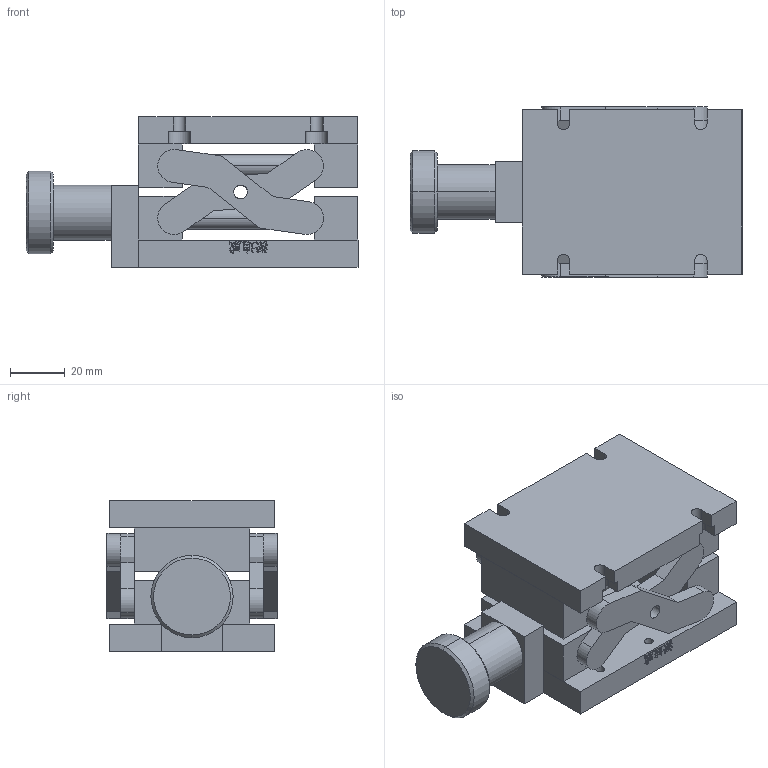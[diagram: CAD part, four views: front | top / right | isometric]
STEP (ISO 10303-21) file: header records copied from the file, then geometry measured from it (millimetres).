
FILE_DESCRIPTION (( 'STEP AP203' ), '1' );
FILE_NAME ('PT-SD31.STEP', '2022-09-04T09:02:31', ( '' ), ( '' ), 'SwSTEP 2.0', 'SolidWorks 2020', '' );
FILE_SCHEMA (( 'CONFIG_CONTROL_DESIGN' ));
Length unit declared in the file: millimetre
Products named in the file (7): 44; 錨璃6^PT-SD31; 錨璃8^PT-SD31; 錨璃7^PT-SD31; PT-SD31; 錨璃10^PT-SD31; 錨璃9^PT-SD31
Assembly tree (10 placements, depth 2):
  PT-SD31
    錨璃6^PT-SD31
    錨璃7^PT-SD31  x2
    44
    錨璃8^PT-SD31
    錨璃9^PT-SD31
    錨璃10^PT-SD31  x4
Bounding box: 121 x 62 x 55 mm (x, y, z)
Volume: 180466.4 mm3; surface area: 58878 mm2
Topology: 10 solids, 10 shells, 394 faces, 1031 edges, 666 vertices
Faces by surface type: plane 208, cylinder 82, bspline 76, cone 28
Entity records: 14053 total; most frequent: CARTESIAN_POINT 5458, ORIENTED_EDGE 1712, DIRECTION 1362, EDGE_CURVE 856, LINE 582, VECTOR 582, VERTEX_POINT 566, AXIS2_PLACEMENT_3D 390
